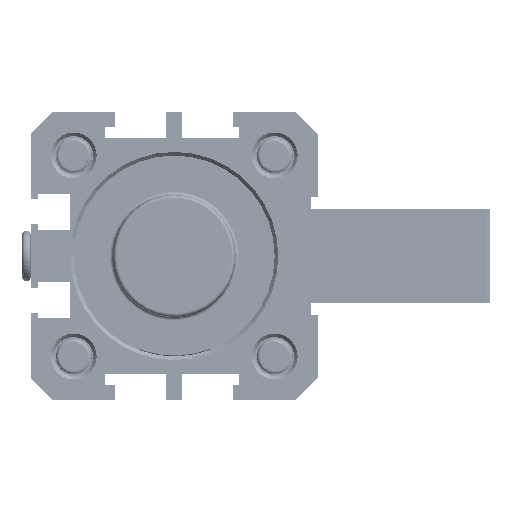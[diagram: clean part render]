
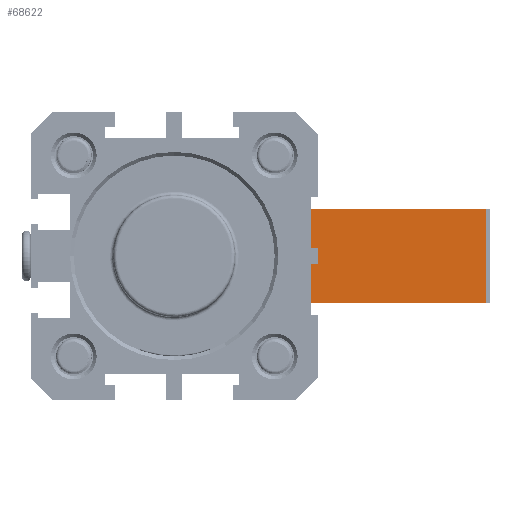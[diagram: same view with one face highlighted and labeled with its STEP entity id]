
A CAD part, front view. The second image highlights one B-rep face of the part: STEP entity #68622.
In plain terms, the highlighted planar face has unit normal (0, -1, 0).
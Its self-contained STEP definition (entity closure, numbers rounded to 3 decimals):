
#66850 = PLANE('',#66851);
#66851 = AXIS2_PLACEMENT_3D('',#66852,#66853,#66854);
#66852 = CARTESIAN_POINT('',(-3021.19,5231.602,13.)
  );
#66853 = DIRECTION('',(0.,0.,1.));
#66854 = DIRECTION('',(1.,0.,-0.));
#67087 = PLANE('',#67088);
#67088 = AXIS2_PLACEMENT_3D('',#67089,#67090,#67091);
#67089 = CARTESIAN_POINT('',(-3021.19,5231.602,0.)
  );
#67090 = DIRECTION('',(0.,0.,1.));
#67091 = DIRECTION('',(1.,0.,-0.));
#67378 = PLANE('',#67379);
#67379 = AXIS2_PLACEMENT_3D('',#67380,#67381,#67382);
#67380 = CARTESIAN_POINT('',(-3088.881,5231.602,3.5)
  );
#67381 = DIRECTION('',(0.,0.,-1.));
#67382 = DIRECTION('',(-1.,0.,0.));
#67438 = PLANE('',#67439);
#67439 = AXIS2_PLACEMENT_3D('',#67440,#67441,#67442);
#67440 = CARTESIAN_POINT('',(-3088.881,5231.602,9.5)
  );
#67441 = DIRECTION('',(0.,0.,-1.));
#67442 = DIRECTION('',(-1.,0.,0.));
#67608 = PLANE('',#67609);
#67609 = AXIS2_PLACEMENT_3D('',#67610,#67611,#67612);
#67610 = CARTESIAN_POINT('',(-3071.19,5232.102,13.)
  );
#67611 = DIRECTION('',(0.707,0.707,-0.));
#67612 = DIRECTION('',(-0.707,0.707,0.));
#67666 = EDGE_CURVE('',#67667,#67669,#67671,.T.);
#67667 = VERTEX_POINT('',#67668);
#67668 = CARTESIAN_POINT('',(-3070.69,5231.602,13.)
  );
#67669 = VERTEX_POINT('',#67670);
#67670 = CARTESIAN_POINT('',(-3070.69,5231.602,9.5)
  );
#67671 = SURFACE_CURVE('',#67672,(#67676,#67683),.PCURVE_S1.);
#67672 = LINE('',#67673,#67674);
#67673 = CARTESIAN_POINT('',(-3070.69,5231.602,13.)
  );
#67674 = VECTOR('',#67675,1.);
#67675 = DIRECTION('',(-0.,-0.,-1.));
#67676 = PCURVE('',#67608,#67677);
#67677 = DEFINITIONAL_REPRESENTATION('',(#67678),#67682);
#67678 = LINE('',#67679,#67680);
#67679 = CARTESIAN_POINT('',(-0.707,0.));
#67680 = VECTOR('',#67681,1.);
#67681 = DIRECTION('',(0.,-1.));
#67682 = ( GEOMETRIC_REPRESENTATION_CONTEXT(2) 
PARAMETRIC_REPRESENTATION_CONTEXT() REPRESENTATION_CONTEXT('2D SPACE',''
  ) );
#67683 = PCURVE('',#67684,#67689);
#67684 = PLANE('',#67685);
#67685 = AXIS2_PLACEMENT_3D('',#67686,#67687,#67688);
#67686 = CARTESIAN_POINT('',(-3069.69,5231.602,13.)
  );
#67687 = DIRECTION('',(0.,1.,-0.));
#67688 = DIRECTION('',(0.,0.,1.));
#67689 = DEFINITIONAL_REPRESENTATION('',(#67690),#67694);
#67690 = LINE('',#67691,#67692);
#67691 = CARTESIAN_POINT('',(0.,-1.));
#67692 = VECTOR('',#67693,1.);
#67693 = DIRECTION('',(-1.,0.));
#67694 = ( GEOMETRIC_REPRESENTATION_CONTEXT(2) 
PARAMETRIC_REPRESENTATION_CONTEXT() REPRESENTATION_CONTEXT('2D SPACE',''
  ) );
#67893 = EDGE_CURVE('',#67667,#67894,#67896,.T.);
#67894 = VERTEX_POINT('',#67895);
#67895 = CARTESIAN_POINT('',(-3021.69,5231.602,13.)
  );
#67896 = SURFACE_CURVE('',#67897,(#67901,#67908),.PCURVE_S1.);
#67897 = LINE('',#67898,#67899);
#67898 = CARTESIAN_POINT('',(-3069.69,5231.602,13.)
  );
#67899 = VECTOR('',#67900,1.);
#67900 = DIRECTION('',(1.,0.,0.));
#67901 = PCURVE('',#66850,#67902);
#67902 = DEFINITIONAL_REPRESENTATION('',(#67903),#67907);
#67903 = LINE('',#67904,#67905);
#67904 = CARTESIAN_POINT('',(-48.5,0.));
#67905 = VECTOR('',#67906,1.);
#67906 = DIRECTION('',(1.,0.));
#67907 = ( GEOMETRIC_REPRESENTATION_CONTEXT(2) 
PARAMETRIC_REPRESENTATION_CONTEXT() REPRESENTATION_CONTEXT('2D SPACE',''
  ) );
#67908 = PCURVE('',#67684,#67909);
#67909 = DEFINITIONAL_REPRESENTATION('',(#67910),#67914);
#67910 = LINE('',#67911,#67912);
#67911 = CARTESIAN_POINT('',(0.,0.));
#67912 = VECTOR('',#67913,1.);
#67913 = DIRECTION('',(0.,1.));
#67914 = ( GEOMETRIC_REPRESENTATION_CONTEXT(2) 
PARAMETRIC_REPRESENTATION_CONTEXT() REPRESENTATION_CONTEXT('2D SPACE',''
  ) );
#67932 = PLANE('',#67933);
#67933 = AXIS2_PLACEMENT_3D('',#67934,#67935,#67936);
#67934 = CARTESIAN_POINT('',(-3021.69,5231.602,13.)
  );
#67935 = DIRECTION('',(-0.707,0.707,0.));
#67936 = DIRECTION('',(-0.707,-0.707,0.));
#68051 = EDGE_CURVE('',#68052,#68054,#68056,.T.);
#68052 = VERTEX_POINT('',#68053);
#68053 = CARTESIAN_POINT('',(-3070.69,5231.602,0.)
  );
#68054 = VERTEX_POINT('',#68055);
#68055 = CARTESIAN_POINT('',(-3021.69,5231.602,0.)
  );
#68056 = SURFACE_CURVE('',#68057,(#68061,#68068),.PCURVE_S1.);
#68057 = LINE('',#68058,#68059);
#68058 = CARTESIAN_POINT('',(-3069.69,5231.602,0.)
  );
#68059 = VECTOR('',#68060,1.);
#68060 = DIRECTION('',(1.,-0.,-0.));
#68061 = PCURVE('',#67087,#68062);
#68062 = DEFINITIONAL_REPRESENTATION('',(#68063),#68067);
#68063 = LINE('',#68064,#68065);
#68064 = CARTESIAN_POINT('',(-48.5,0.));
#68065 = VECTOR('',#68066,1.);
#68066 = DIRECTION('',(1.,-0.));
#68067 = ( GEOMETRIC_REPRESENTATION_CONTEXT(2) 
PARAMETRIC_REPRESENTATION_CONTEXT() REPRESENTATION_CONTEXT('2D SPACE',''
  ) );
#68068 = PCURVE('',#67684,#68069);
#68069 = DEFINITIONAL_REPRESENTATION('',(#68070),#68074);
#68070 = LINE('',#68071,#68072);
#68071 = CARTESIAN_POINT('',(-13.,0.));
#68072 = VECTOR('',#68073,1.);
#68073 = DIRECTION('',(0.,1.));
#68074 = ( GEOMETRIC_REPRESENTATION_CONTEXT(2) 
PARAMETRIC_REPRESENTATION_CONTEXT() REPRESENTATION_CONTEXT('2D SPACE',''
  ) );
#68220 = EDGE_CURVE('',#67894,#68054,#68221,.T.);
#68221 = SURFACE_CURVE('',#68222,(#68226,#68233),.PCURVE_S1.);
#68222 = LINE('',#68223,#68224);
#68223 = CARTESIAN_POINT('',(-3021.69,5231.602,13.)
  );
#68224 = VECTOR('',#68225,1.);
#68225 = DIRECTION('',(-0.,-0.,-1.));
#68226 = PCURVE('',#67932,#68227);
#68227 = DEFINITIONAL_REPRESENTATION('',(#68228),#68232);
#68228 = LINE('',#68229,#68230);
#68229 = CARTESIAN_POINT('',(0.,0.));
#68230 = VECTOR('',#68231,1.);
#68231 = DIRECTION('',(0.,-1.));
#68232 = ( GEOMETRIC_REPRESENTATION_CONTEXT(2) 
PARAMETRIC_REPRESENTATION_CONTEXT() REPRESENTATION_CONTEXT('2D SPACE',''
  ) );
#68233 = PCURVE('',#67684,#68234);
#68234 = DEFINITIONAL_REPRESENTATION('',(#68235),#68239);
#68235 = LINE('',#68236,#68237);
#68236 = CARTESIAN_POINT('',(0.,48.));
#68237 = VECTOR('',#68238,1.);
#68238 = DIRECTION('',(-1.,0.));
#68239 = ( GEOMETRIC_REPRESENTATION_CONTEXT(2) 
PARAMETRIC_REPRESENTATION_CONTEXT() REPRESENTATION_CONTEXT('2D SPACE',''
  ) );
#68365 = PLANE('',#68366);
#68366 = AXIS2_PLACEMENT_3D('',#68367,#68368,#68369);
#68367 = CARTESIAN_POINT('',(-3057.19,5231.602,6.5)
  );
#68368 = DIRECTION('',(1.,0.,0.));
#68369 = DIRECTION('',(0.,0.,-1.));
#68521 = PLANE('',#68522);
#68522 = AXIS2_PLACEMENT_3D('',#68523,#68524,#68525);
#68523 = CARTESIAN_POINT('',(-3071.19,5232.102,13.)
  );
#68524 = DIRECTION('',(0.707,0.707,-0.));
#68525 = DIRECTION('',(-0.707,0.707,0.));
#68579 = EDGE_CURVE('',#68580,#68052,#68582,.T.);
#68580 = VERTEX_POINT('',#68581);
#68581 = CARTESIAN_POINT('',(-3070.69,5231.602,3.5)
  );
#68582 = SURFACE_CURVE('',#68583,(#68587,#68594),.PCURVE_S1.);
#68583 = LINE('',#68584,#68585);
#68584 = CARTESIAN_POINT('',(-3070.69,5231.602,13.)
  );
#68585 = VECTOR('',#68586,1.);
#68586 = DIRECTION('',(-0.,-0.,-1.));
#68587 = PCURVE('',#68521,#68588);
#68588 = DEFINITIONAL_REPRESENTATION('',(#68589),#68593);
#68589 = LINE('',#68590,#68591);
#68590 = CARTESIAN_POINT('',(-0.707,0.));
#68591 = VECTOR('',#68592,1.);
#68592 = DIRECTION('',(0.,-1.));
#68593 = ( GEOMETRIC_REPRESENTATION_CONTEXT(2) 
PARAMETRIC_REPRESENTATION_CONTEXT() REPRESENTATION_CONTEXT('2D SPACE',''
  ) );
#68594 = PCURVE('',#67684,#68595);
#68595 = DEFINITIONAL_REPRESENTATION('',(#68596),#68600);
#68596 = LINE('',#68597,#68598);
#68597 = CARTESIAN_POINT('',(0.,-1.));
#68598 = VECTOR('',#68599,1.);
#68599 = DIRECTION('',(-1.,0.));
#68600 = ( GEOMETRIC_REPRESENTATION_CONTEXT(2) 
PARAMETRIC_REPRESENTATION_CONTEXT() REPRESENTATION_CONTEXT('2D SPACE',''
  ) );
#68622 = ADVANCED_FACE('',(#68623),#67684,.F.);
#68623 = FACE_BOUND('',#68624,.T.);
#68624 = EDGE_LOOP('',(#68625,#68650,#68671,#68672,#68673,#68674,#68675,
    #68676));
#68625 = ORIENTED_EDGE('',*,*,#68626,.T.);
#68626 = EDGE_CURVE('',#68627,#68629,#68631,.T.);
#68627 = VERTEX_POINT('',#68628);
#68628 = CARTESIAN_POINT('',(-3057.19,5231.602,9.5)
  );
#68629 = VERTEX_POINT('',#68630);
#68630 = CARTESIAN_POINT('',(-3057.19,5231.602,3.5)
  );
#68631 = SURFACE_CURVE('',#68632,(#68636,#68643),.PCURVE_S1.);
#68632 = LINE('',#68633,#68634);
#68633 = CARTESIAN_POINT('',(-3057.19,5231.602,6.5)
  );
#68634 = VECTOR('',#68635,1.);
#68635 = DIRECTION('',(0.,0.,-1.));
#68636 = PCURVE('',#67684,#68637);
#68637 = DEFINITIONAL_REPRESENTATION('',(#68638),#68642);
#68638 = LINE('',#68639,#68640);
#68639 = CARTESIAN_POINT('',(-6.5,12.5));
#68640 = VECTOR('',#68641,1.);
#68641 = DIRECTION('',(-1.,0.));
#68642 = ( GEOMETRIC_REPRESENTATION_CONTEXT(2) 
PARAMETRIC_REPRESENTATION_CONTEXT() REPRESENTATION_CONTEXT('2D SPACE',''
  ) );
#68643 = PCURVE('',#68365,#68644);
#68644 = DEFINITIONAL_REPRESENTATION('',(#68645),#68649);
#68645 = LINE('',#68646,#68647);
#68646 = CARTESIAN_POINT('',(0.,0.));
#68647 = VECTOR('',#68648,1.);
#68648 = DIRECTION('',(1.,0.));
#68649 = ( GEOMETRIC_REPRESENTATION_CONTEXT(2) 
PARAMETRIC_REPRESENTATION_CONTEXT() REPRESENTATION_CONTEXT('2D SPACE',''
  ) );
#68650 = ORIENTED_EDGE('',*,*,#68651,.T.);
#68651 = EDGE_CURVE('',#68629,#68580,#68652,.T.);
#68652 = SURFACE_CURVE('',#68653,(#68657,#68664),.PCURVE_S1.);
#68653 = LINE('',#68654,#68655);
#68654 = CARTESIAN_POINT('',(-3088.881,5231.602,3.5)
  );
#68655 = VECTOR('',#68656,1.);
#68656 = DIRECTION('',(-1.,0.,0.));
#68657 = PCURVE('',#67684,#68658);
#68658 = DEFINITIONAL_REPRESENTATION('',(#68659),#68663);
#68659 = LINE('',#68660,#68661);
#68660 = CARTESIAN_POINT('',(-9.5,-19.191));
#68661 = VECTOR('',#68662,1.);
#68662 = DIRECTION('',(0.,-1.));
#68663 = ( GEOMETRIC_REPRESENTATION_CONTEXT(2) 
PARAMETRIC_REPRESENTATION_CONTEXT() REPRESENTATION_CONTEXT('2D SPACE',''
  ) );
#68664 = PCURVE('',#67378,#68665);
#68665 = DEFINITIONAL_REPRESENTATION('',(#68666),#68670);
#68666 = LINE('',#68667,#68668);
#68667 = CARTESIAN_POINT('',(0.,0.));
#68668 = VECTOR('',#68669,1.);
#68669 = DIRECTION('',(1.,0.));
#68670 = ( GEOMETRIC_REPRESENTATION_CONTEXT(2) 
PARAMETRIC_REPRESENTATION_CONTEXT() REPRESENTATION_CONTEXT('2D SPACE',''
  ) );
#68671 = ORIENTED_EDGE('',*,*,#68579,.T.);
#68672 = ORIENTED_EDGE('',*,*,#68051,.T.);
#68673 = ORIENTED_EDGE('',*,*,#68220,.F.);
#68674 = ORIENTED_EDGE('',*,*,#67893,.F.);
#68675 = ORIENTED_EDGE('',*,*,#67666,.T.);
#68676 = ORIENTED_EDGE('',*,*,#68677,.F.);
#68677 = EDGE_CURVE('',#68627,#67669,#68678,.T.);
#68678 = SURFACE_CURVE('',#68679,(#68683,#68690),.PCURVE_S1.);
#68679 = LINE('',#68680,#68681);
#68680 = CARTESIAN_POINT('',(-3088.881,5231.602,9.5)
  );
#68681 = VECTOR('',#68682,1.);
#68682 = DIRECTION('',(-1.,0.,0.));
#68683 = PCURVE('',#67684,#68684);
#68684 = DEFINITIONAL_REPRESENTATION('',(#68685),#68689);
#68685 = LINE('',#68686,#68687);
#68686 = CARTESIAN_POINT('',(-3.5,-19.191));
#68687 = VECTOR('',#68688,1.);
#68688 = DIRECTION('',(0.,-1.));
#68689 = ( GEOMETRIC_REPRESENTATION_CONTEXT(2) 
PARAMETRIC_REPRESENTATION_CONTEXT() REPRESENTATION_CONTEXT('2D SPACE',''
  ) );
#68690 = PCURVE('',#67438,#68691);
#68691 = DEFINITIONAL_REPRESENTATION('',(#68692),#68696);
#68692 = LINE('',#68693,#68694);
#68693 = CARTESIAN_POINT('',(0.,0.));
#68694 = VECTOR('',#68695,1.);
#68695 = DIRECTION('',(1.,0.));
#68696 = ( GEOMETRIC_REPRESENTATION_CONTEXT(2) 
PARAMETRIC_REPRESENTATION_CONTEXT() REPRESENTATION_CONTEXT('2D SPACE',''
  ) );
